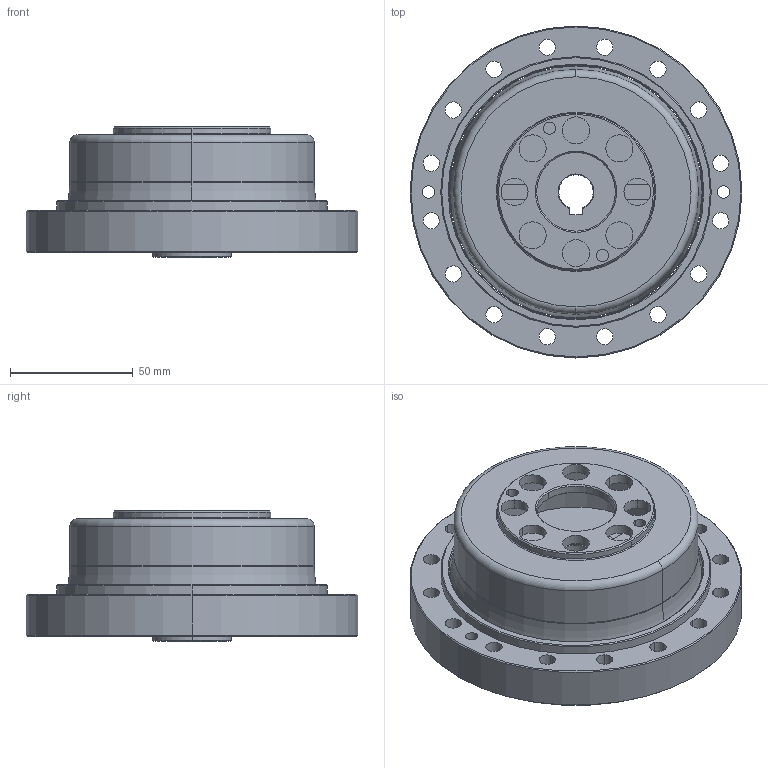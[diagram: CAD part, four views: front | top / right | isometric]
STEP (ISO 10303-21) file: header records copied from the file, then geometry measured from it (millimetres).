
FILE_DESCRIPTION (( 'STEP AP203' ), '1' );
FILE_NAME ('FCG-40-XXX-CO.STEP', '2022-08-04T05:59:17', ( '微软用户' ), ( '微软中国' ), 'SwSTEP 2.0', 'SolidWorks 2016', '' );
FILE_SCHEMA (( 'CONFIG_CONTROL_DESIGN' ));
Length unit declared in the file: millimetre
Products named in the file (1): FCG-40-XXX-CO
Bounding box: 135 x 135 x 53 mm (x, y, z)
Volume: 250617.4 mm3; surface area: 143312.8 mm2
Topology: 33 solids, 33 shells, 426 faces, 1143 edges, 746 vertices
Faces by surface type: cylinder 191, plane 114, cone 47, sphere 46, torus 28
Entity records: 12938 total; most frequent: DIRECTION 2483, CARTESIAN_POINT 2216, ORIENTED_EDGE 2056, AXIS2_PLACEMENT_3D 1056, EDGE_CURVE 1028, VERTEX_POINT 677, CIRCLE 629, EDGE_LOOP 513
